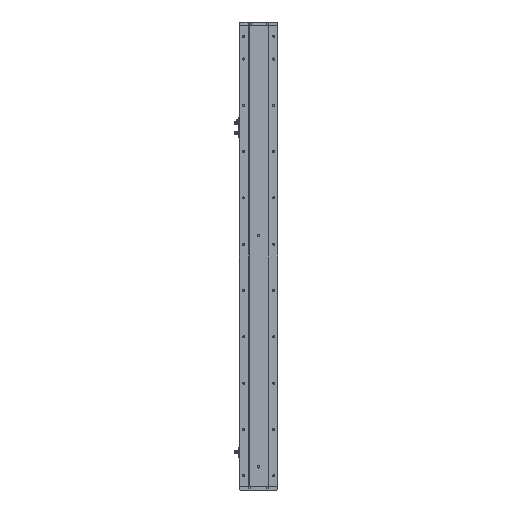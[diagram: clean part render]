
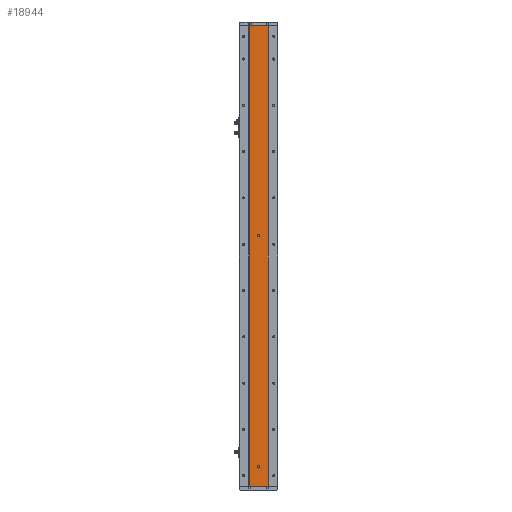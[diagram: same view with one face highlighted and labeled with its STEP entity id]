
A CAD part, left-side view. The second image highlights one B-rep face of the part: STEP entity #18944.
In plain terms, the highlighted planar face has unit normal (-1, 0, 0).
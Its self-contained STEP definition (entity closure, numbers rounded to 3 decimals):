
#170 = DIRECTION ( 'NONE',  ( 0., 0., 1. ) ) ;
#918 = FACE_BOUND ( 'NONE', #30578, .T. ) ;
#1526 = CARTESIAN_POINT ( 'NONE',  ( -18.926, 0., 653. ) ) ;
#2175 = VERTEX_POINT ( 'NONE', #12773 ) ;
#2531 = AXIS2_PLACEMENT_3D ( 'NONE', #40206, #20220, #170 ) ;
#3253 = EDGE_CURVE ( 'NONE', #2175, #34939, #25782, .T. ) ;
#4168 = EDGE_CURVE ( 'NONE', #35278, #16212, #24666, .T. ) ;
#4838 = EDGE_CURVE ( 'NONE', #42030, #17797, #10438, .T. ) ;
#5566 = AXIS2_PLACEMENT_3D ( 'NONE', #35301, #15360, #38702 ) ;
#6794 = ORIENTED_EDGE ( 'NONE', *, *, #4168, .F. ) ;
#8217 = EDGE_CURVE ( 'NONE', #36335, #13844, #11550, .T. ) ;
#8302 = CARTESIAN_POINT ( 'NONE',  ( -18.926, 24.785, 1193. ) ) ;
#10438 = CIRCLE ( 'NONE', #2531, 3. ) ;
#11331 = EDGE_CURVE ( 'NONE', #17797, #42030, #26084, .T. ) ;
#11550 = LINE ( 'NONE', #19205, #37129 ) ;
#11670 = DIRECTION ( 'NONE',  ( 0., 0., -1. ) ) ;
#11813 = AXIS2_PLACEMENT_3D ( 'NONE', #18538, #41890, #21888 ) ;
#11905 = CARTESIAN_POINT ( 'NONE',  ( -18.926, -24.785, 1193. ) ) ;
#12197 = ORIENTED_EDGE ( 'NONE', *, *, #11331, .F. ) ;
#12310 = EDGE_LOOP ( 'NONE', ( #42863, #6794, #24619, #40017 ) ) ;
#12357 = ORIENTED_EDGE ( 'NONE', *, *, #4838, .F. ) ;
#12736 = DIRECTION ( 'NONE',  ( 0., -1., 0. ) ) ;
#12773 = CARTESIAN_POINT ( 'NONE',  ( -18.926, 0., 53. ) ) ;
#13255 = EDGE_LOOP ( 'NONE', ( #22475, #26593 ) ) ;
#13844 = VERTEX_POINT ( 'NONE', #32782 ) ;
#13877 = CARTESIAN_POINT ( 'NONE',  ( -18.926, -24.785, 1193. ) ) ;
#15230 = CARTESIAN_POINT ( 'NONE',  ( -18.926, -24.785, 0. ) ) ;
#15294 = CARTESIAN_POINT ( 'NONE',  ( -18.926, 0., 50. ) ) ;
#15360 = DIRECTION ( 'NONE',  ( -1., 0., 0. ) ) ;
#15998 = EDGE_CURVE ( 'NONE', #13844, #16212, #42678, .T. ) ;
#16212 = VERTEX_POINT ( 'NONE', #15230 ) ;
#16781 = CARTESIAN_POINT ( 'NONE',  ( -18.926, 24.785, 1193. ) ) ;
#17797 = VERTEX_POINT ( 'NONE', #1526 ) ;
#17847 = EDGE_CURVE ( 'NONE', #34939, #2175, #39754, .T. ) ;
#18538 = CARTESIAN_POINT ( 'NONE',  ( -18.926, 0., 650. ) ) ;
#18670 = DIRECTION ( 'NONE',  ( 0., 0., 1. ) ) ;
#18944 = ADVANCED_FACE ( 'NONE', ( #918, #25499, #43251 ), #34555, .F. ) ;
#19205 = CARTESIAN_POINT ( 'NONE',  ( -18.926, 24.785, 1193. ) ) ;
#19318 = CARTESIAN_POINT ( 'NONE',  ( -18.926, 24.785, 0. ) ) ;
#19757 = CARTESIAN_POINT ( 'NONE',  ( -18.926, 24.785, 1193. ) ) ;
#19790 = LINE ( 'NONE', #16781, #41219 ) ;
#20220 = DIRECTION ( 'NONE',  ( -1., 0., 0. ) ) ;
#20998 = AXIS2_PLACEMENT_3D ( 'NONE', #15294, #38628, #18670 ) ;
#21888 = DIRECTION ( 'NONE',  ( 0., 0., 1. ) ) ;
#22475 = ORIENTED_EDGE ( 'NONE', *, *, #3253, .F. ) ;
#22730 = AXIS2_PLACEMENT_3D ( 'NONE', #8302, #31651, #11670 ) ;
#23334 = DIRECTION ( 'NONE',  ( 0., -1., 0. ) ) ;
#24619 = ORIENTED_EDGE ( 'NONE', *, *, #40152, .F. ) ;
#24666 = LINE ( 'NONE', #11905, #33486 ) ;
#25499 = FACE_BOUND ( 'NONE', #13255, .T. ) ;
#25782 = CIRCLE ( 'NONE', #5566, 3. ) ;
#26084 = CIRCLE ( 'NONE', #11813, 3. ) ;
#26593 = ORIENTED_EDGE ( 'NONE', *, *, #17847, .F. ) ;
#27939 = CARTESIAN_POINT ( 'NONE',  ( -18.926, 0., 647. ) ) ;
#28745 = CARTESIAN_POINT ( 'NONE',  ( -18.926, 0., 47. ) ) ;
#30578 = EDGE_LOOP ( 'NONE', ( #12197, #12357 ) ) ;
#31651 = DIRECTION ( 'NONE',  ( 1., 0., 0. ) ) ;
#31869 = DIRECTION ( 'NONE',  ( 0., 0., -1. ) ) ;
#32782 = CARTESIAN_POINT ( 'NONE',  ( -18.926, 24.785, 0. ) ) ;
#33486 = VECTOR ( 'NONE', #31869, 1000. ) ;
#33723 = VECTOR ( 'NONE', #12736, 1000. ) ;
#34555 = PLANE ( 'NONE',  #22730 ) ;
#34939 = VERTEX_POINT ( 'NONE', #28745 ) ;
#35278 = VERTEX_POINT ( 'NONE', #13877 ) ;
#35301 = CARTESIAN_POINT ( 'NONE',  ( -18.926, 0., 50. ) ) ;
#36335 = VERTEX_POINT ( 'NONE', #19757 ) ;
#37129 = VECTOR ( 'NONE', #42568, 1000. ) ;
#38628 = DIRECTION ( 'NONE',  ( -1., 0., 0. ) ) ;
#38702 = DIRECTION ( 'NONE',  ( 0., 0., 1. ) ) ;
#39754 = CIRCLE ( 'NONE', #20998, 3. ) ;
#40017 = ORIENTED_EDGE ( 'NONE', *, *, #8217, .T. ) ;
#40152 = EDGE_CURVE ( 'NONE', #36335, #35278, #19790, .T. ) ;
#40206 = CARTESIAN_POINT ( 'NONE',  ( -18.926, 0., 650. ) ) ;
#41219 = VECTOR ( 'NONE', #23334, 1000. ) ;
#41890 = DIRECTION ( 'NONE',  ( -1., 0., 0. ) ) ;
#42030 = VERTEX_POINT ( 'NONE', #27939 ) ;
#42568 = DIRECTION ( 'NONE',  ( 0., 0., -1. ) ) ;
#42678 = LINE ( 'NONE', #19318, #33723 ) ;
#42863 = ORIENTED_EDGE ( 'NONE', *, *, #15998, .T. ) ;
#43251 = FACE_OUTER_BOUND ( 'NONE', #12310, .T. ) ;
